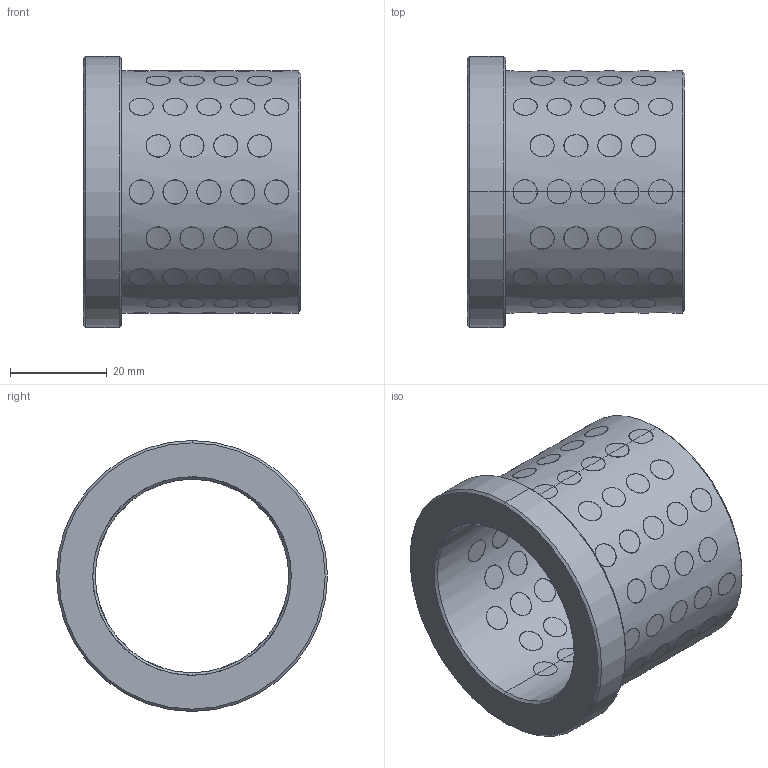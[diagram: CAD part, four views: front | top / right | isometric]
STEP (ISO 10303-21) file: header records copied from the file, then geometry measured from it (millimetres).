
FILE_DESCRIPTION(('CATIA V5 STEP Exchange'),'2;1');
FILE_NAME('C:\Users\Utente\Desktop\3D files G401\G4014045.stp','2020-04-22T08:37:23+00:00',('none'),('none'),'CATIA Version 5 Release 20 GA (IN-10)','CATIA V5 STEP AP203','none');
FILE_SCHEMA(('CONFIG_CONTROL_DESIGN'));
Products named in the file (1): G4014045
Bounding box: 45 x 56 x 56 mm (x, y, z)
Surface area: 26295.9 mm2 (no closed solid volume)
Topology: 0 solids, 471 shells, 471 faces, 2044 edges, 2044 vertices
Faces by surface type: cylinder 458, revolution 10, plane 3
Entity records: 48513 total; most frequent: CARTESIAN_POINT 34347, ORIENTED_EDGE 2044, EDGE_CURVE 2044, VERTEX_POINT 2044, DIRECTION 1657, B_SPLINE_CURVE_WITH_KNOTS 1329, VECTOR 688, LINE 688
